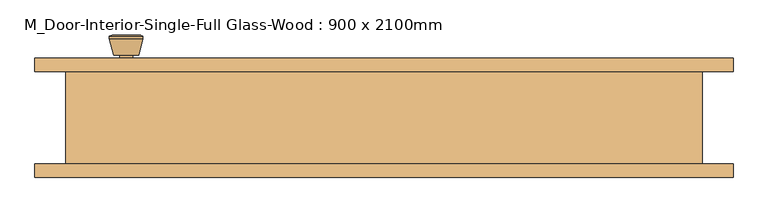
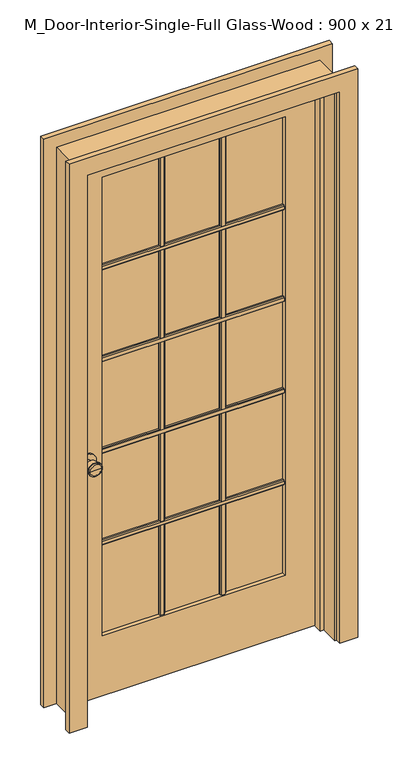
"""IFC4 building model written with IfcOpenShell, lengths in millimetres: door geometry, M_Door-Interior-Single-Full Glass-Wood : 900 x 2100mm."""

from ifc_helpers import new_model, si_unit, point, frame, frame_2d, origin, place, context, project, spatial, polyline, circle_curve, trimmed, segment, composite_curve, outline, extrude, faceted_brep, source, transform, mapped, element, save
from ifc_brep_helpers import plane_surface, cylinder_surface, revolved_surface, advanced_brep


def m_door_interior_single_full_glass_wood_900_x_2100mm_91e60ec7(model_context):
    return source(origin(), model_context, "Body", "SolidModel", [
        extrude(outline(polyline([(52.075, 1639.525), (58.425, 1639.525), (61.6, 1636.35), (61.6, 1623.65), (58.425, 1620.475), (52.075, 1620.475), (52.075, 1639.525)])), frame((-330.0, 0.0, 0.0), z_axis=(1.0, 0.0, 0.0), x_axis=(0.0, 1.0, 0.0)), (0.0, 0.0, 1.0), 660.0),
        extrude(outline(polyline([(52.075, 1289.525), (58.425, 1289.525), (61.6, 1286.35), (61.6, 1273.65), (58.425, 1270.475), (52.075, 1270.475), (52.075, 1289.525)])), frame((-330.0, 0.0, 0.0), z_axis=(1.0, 0.0, 0.0), x_axis=(0.0, 1.0, 0.0)), (0.0, 0.0, 1.0), 660.0),
        extrude(outline(polyline([(52.075, 939.525), (58.425, 939.525), (61.6, 936.35), (61.6, 923.65), (58.425, 920.475), (52.075, 920.475), (52.075, 939.525)])), frame((-330.0, 0.0, 0.0), z_axis=(1.0, 0.0, 0.0), x_axis=(0.0, 1.0, 0.0)), (0.0, 0.0, 1.0), 660.0),
        extrude(outline(polyline([(52.075, 589.525), (58.425, 589.525), (61.6, 586.35), (61.6, 573.65), (58.425, 570.475), (52.075, 570.475), (52.075, 589.525)])), frame((-330.0, 0.0, 0.0), z_axis=(1.0, 0.0, 0.0), x_axis=(0.0, 1.0, 0.0)), (0.0, 0.0, 1.0), 660.0),
        extrude(outline(polyline([(100.475, 52.075), (100.475, 58.425), (103.65, 61.6), (116.35, 61.6), (119.525, 58.425), (119.525, 52.075), (100.475, 52.075)])), frame((0.0, 0.0, 230.0), z_axis=(0.0, 0.0, 1.0), x_axis=(1.0, 0.0, 0.0)), (0.0, 0.0, 1.0), 1750.0),
        extrude(outline(polyline([(-119.525, 52.075), (-119.525, 58.425), (-116.35, 61.6), (-103.65, 61.6), (-100.475, 58.425), (-100.475, 52.075), (-119.525, 52.075)])), frame((0.0, 0.0, 230.0), z_axis=(0.0, 0.0, 1.0), x_axis=(1.0, 0.0, 0.0)), (0.0, 0.0, 1.0), 1750.0),
        extrude(outline(polyline([(45.075, 1639.525), (45.075, 1620.475), (38.725, 1620.475), (35.55, 1623.65), (35.55, 1636.35), (38.725, 1639.525), (45.075, 1639.525)])), frame((-330.0, 0.0, 0.0), z_axis=(1.0, 0.0, 0.0), x_axis=(0.0, 1.0, 0.0)), (0.0, 0.0, 1.0), 660.0),
        extrude(outline(polyline([(45.075, 1289.525), (45.075, 1270.475), (38.725, 1270.475), (35.55, 1273.65), (35.55, 1286.35), (38.725, 1289.525), (45.075, 1289.525)])), frame((-330.0, 0.0, 0.0), z_axis=(1.0, 0.0, 0.0), x_axis=(0.0, 1.0, 0.0)), (0.0, 0.0, 1.0), 660.0),
        extrude(outline(polyline([(45.075, 939.525), (45.075, 920.475), (38.725, 920.475), (35.55, 923.65), (35.55, 936.35), (38.725, 939.525), (45.075, 939.525)])), frame((-330.0, 0.0, 0.0), z_axis=(1.0, 0.0, 0.0), x_axis=(0.0, 1.0, 0.0)), (0.0, 0.0, 1.0), 660.0),
        extrude(outline(polyline([(45.075, 589.525), (45.075, 570.475), (38.725, 570.475), (35.55, 573.65), (35.55, 586.35), (38.725, 589.525), (45.075, 589.525)])), frame((-330.0, 0.0, 0.0), z_axis=(1.0, 0.0, 0.0), x_axis=(0.0, 1.0, 0.0)), (0.0, 0.0, 1.0), 660.0),
        extrude(outline(polyline([(100.475, 45.075), (119.525, 45.075), (119.525, 38.725), (116.35, 35.55), (103.65, 35.55), (100.475, 38.725), (100.475, 45.075)])), frame((0.0, 0.0, 230.0), z_axis=(0.0, 0.0, 1.0), x_axis=(1.0, 0.0, 0.0)), (0.0, 0.0, 1.0), 1750.0),
        extrude(outline(polyline([(-119.525, 45.075), (-100.475, 45.075), (-100.475, 38.725), (-103.65, 35.55), (-116.35, 35.55), (-119.525, 38.725), (-119.525, 45.075)])), frame((0.0, 0.0, 230.0), z_axis=(0.0, 0.0, 1.0), x_axis=(1.0, 0.0, 0.0)), (0.0, 0.0, 1.0), 1750.0),
        advanced_brep(
        [(-385.0, 25.075, 914.4), (-375.0, 25.075, 914.4), (-395.0, 25.075, 914.4), (-364.5241324, -23.925, 914.4), (-385.0, -23.925, 914.4), (-405.4758676, -23.925, 914.4), (-360.0, -22.0971319, 914.4), (-410.0, -22.0971319, 914.4), (-360.0, -18.6334537, 914.4), (-410.0, -18.6334537, 914.4), (-366.363764, 6.075, 914.4), (-403.636236, 6.075, 914.4), (-375.0, 6.075, 914.4), (-395.0, 6.075, 914.4)],
        [
            (0, 1),
            (1, 2, circle_curve(frame((-385.0, 25.075, 914.4), z_axis=(0.0, 1.0, 0.0), x_axis=(-1.0, 0.0, 0.0)), 10.0)),
            (2, 0),
            (2, 1, circle_curve(frame((-385.0, 25.075, 914.4), z_axis=(0.0, 1.0, 0.0), x_axis=(-1.0, 0.0, 0.0)), 10.0)),
            (3, 4),
            (4, 5),
            (5, 3, circle_curve(frame((-385.0, -23.925, 914.4), z_axis=(0.0, -1.0, 0.0), x_axis=(-1.0, 0.0, 0.0)), 20.4758676)),
            (3, 5, circle_curve(frame((-385.0, -23.925, 914.4), z_axis=(0.0, -1.0, 0.0), x_axis=(-1.0, 0.0, 0.0)), 20.4758676)),
            (6, 3),
            (5, 7),
            (7, 6, circle_curve(frame((-385.0, -22.0971319, 914.4), z_axis=(0.0, -1.0, 0.0), x_axis=(-1.0, 0.0, 0.0)), 25.0)),
            (6, 7, circle_curve(frame((-385.0, -22.0971319, 914.4), z_axis=(0.0, -1.0, 0.0), x_axis=(-1.0, 0.0, 0.0)), 25.0)),
            (8, 6),
            (7, 9),
            (9, 8, circle_curve(frame((-385.0, -18.6334537, 914.4), z_axis=(0.0, -1.0, 0.0), x_axis=(-1.0, 0.0, 0.0)), 25.0)),
            (8, 9, circle_curve(frame((-385.0, -18.6334537, 914.4), z_axis=(0.0, -1.0, 0.0), x_axis=(-1.0, 0.0, 0.0)), 25.0)),
            (10, 8),
            (9, 11),
            (11, 10, circle_curve(frame((-385.0, 6.075, 914.4), z_axis=(0.0, -1.0, 0.0), x_axis=(-1.0, 0.0, 0.0)), 18.636236)),
            (10, 11, circle_curve(frame((-385.0, 6.075, 914.4), z_axis=(0.0, -1.0, 0.0), x_axis=(-1.0, 0.0, 0.0)), 18.636236)),
            (12, 10),
            (11, 13),
            (13, 12, circle_curve(frame((-385.0, 6.075, 914.4), z_axis=(0.0, -1.0, 0.0), x_axis=(-1.0, 0.0, 0.0)), 10.0)),
            (12, 13, circle_curve(frame((-385.0, 6.075, 914.4), z_axis=(0.0, -1.0, 0.0), x_axis=(-1.0, 0.0, 0.0)), 10.0)),
            (1, 12),
            (13, 2),
        ],
        [
            plane_surface(frame((-385.0, 25.075, 914.4), z_axis=(0.0, 1.0, 0.0), x_axis=(-1.0, 0.0, 0.0))),
            plane_surface(frame((-385.0, -23.925, 914.4), z_axis=(0.0, -1.0, 0.0), x_axis=(-1.0, 0.0, 0.0))),
            revolved_surface(polyline([(-405.4758676, -23.925, 914.4), (-410.0, -22.0971319, 914.4)]), (-385.0, 25.075, 914.4), (0.0, 1.0, 0.0)),
            cylinder_surface(frame((-385.0, 25.075, 914.4), z_axis=(0.0, 1.0, 0.0), x_axis=(-1.0, 0.0, 0.0)), 25.0),
            revolved_surface(polyline([(-410.0, -18.6334537, 914.4), (-403.636236, 6.075, 914.4)]), (-385.0, 25.075, 914.4), (0.0, 1.0, 0.0)),
            plane_surface(frame((-385.0, 6.075, 914.4), z_axis=(0.0, 1.0, 0.0), x_axis=(-1.0, 0.0, 0.0))),
            cylinder_surface(frame((-385.0, 25.075, 914.4), z_axis=(0.0, 1.0, 0.0), x_axis=(-1.0, 0.0, 0.0)), 10.0),
        ],
        [
            (0, [[1, 2, 3]]),
            (0, [[-3, 4, -1]]),
            (1, [[5, 6, 7]]),
            (1, [[-6, -5, 8]]),
            (2, [[9, -7, 10, 11]]),
            (2, [[-10, -8, -9, 12]]),
            (3, [[13, -11, 14, 15]]),
            (3, [[-14, -12, -13, 16]]),
            (4, [[17, -15, 18, 19]]),
            (4, [[-18, -16, -17, 20]]),
            (5, [[21, -19, 22, 23]]),
            (5, [[-22, -20, -21, 24]]),
            (6, [[25, -23, 26, -2]]),
            (6, [[-26, -24, -25, -4]]),
        ],
    ),
        extrude(outline(composite_curve([segment(trimmed(circle_curve(frame_2d((914.4, -385.0)), 30.0), [point((914.4, -415.0))], [point((914.4, -355.0))], False, "CARTESIAN"), True, "CONTINUOUS"), segment(trimmed(circle_curve(frame_2d((914.4, -385.0)), 30.0), [point((914.4, -355.0))], [point((914.4, -415.0))], False, "CARTESIAN"), True, "CONTINUOUS")], self_intersect=False)), frame((0.0, 25.075, 0.0), z_axis=(0.0, 1.0, 0.0), x_axis=(0.0, 0.0, 1.0)), (0.0, 0.0, 1.0), 6.0),
        advanced_brep(
        [(-385.0, 72.075, 914.4), (-395.0, 72.075, 914.4), (-375.0, 72.075, 914.4), (-364.5241324, 121.075, 914.4), (-405.4758676, 121.075, 914.4), (-385.0, 121.075, 914.4), (-360.0, 119.2471319, 914.4), (-410.0, 119.2471319, 914.4), (-360.0, 115.7834537, 914.4), (-410.0, 115.7834537, 914.4), (-366.363764, 91.075, 914.4), (-403.636236, 91.075, 914.4), (-375.0, 91.075, 914.4), (-395.0, 91.075, 914.4)],
        [
            (0, 1),
            (1, 2, circle_curve(frame((-385.0, 72.075, 914.4), z_axis=(0.0, -1.0, 0.0), x_axis=(-1.0, 0.0, 0.0)), 10.0)),
            (2, 0),
            (2, 1, circle_curve(frame((-385.0, 72.075, 914.4), z_axis=(0.0, -1.0, 0.0), x_axis=(-1.0, 0.0, 0.0)), 10.0)),
            (3, 4, circle_curve(frame((-385.0, 121.075, 914.4), z_axis=(0.0, 1.0, 0.0), x_axis=(-1.0, 0.0, 0.0)), 20.4758676)),
            (4, 5),
            (5, 3),
            (4, 3, circle_curve(frame((-385.0, 121.075, 914.4), z_axis=(0.0, 1.0, 0.0), x_axis=(-1.0, 0.0, 0.0)), 20.4758676)),
            (6, 7, circle_curve(frame((-385.0, 119.2471319, 914.4), z_axis=(0.0, 1.0, 0.0), x_axis=(-1.0, 0.0, 0.0)), 25.0)),
            (7, 4),
            (3, 6),
            (7, 6, circle_curve(frame((-385.0, 119.2471319, 914.4), z_axis=(0.0, 1.0, 0.0), x_axis=(-1.0, 0.0, 0.0)), 25.0)),
            (8, 9, circle_curve(frame((-385.0, 115.7834537, 914.4), z_axis=(0.0, 1.0, 0.0), x_axis=(-1.0, 0.0, 0.0)), 25.0)),
            (9, 7),
            (6, 8),
            (9, 8, circle_curve(frame((-385.0, 115.7834537, 914.4), z_axis=(0.0, 1.0, 0.0), x_axis=(-1.0, 0.0, 0.0)), 25.0)),
            (10, 11, circle_curve(frame((-385.0, 91.075, 914.4), z_axis=(0.0, 1.0, 0.0), x_axis=(-1.0, 0.0, 0.0)), 18.636236)),
            (11, 9),
            (8, 10),
            (11, 10, circle_curve(frame((-385.0, 91.075, 914.4), z_axis=(0.0, 1.0, 0.0), x_axis=(-1.0, 0.0, 0.0)), 18.636236)),
            (12, 13, circle_curve(frame((-385.0, 91.075, 914.4), z_axis=(0.0, 1.0, 0.0), x_axis=(-1.0, 0.0, 0.0)), 10.0)),
            (13, 11),
            (10, 12),
            (13, 12, circle_curve(frame((-385.0, 91.075, 914.4), z_axis=(0.0, 1.0, 0.0), x_axis=(-1.0, 0.0, 0.0)), 10.0)),
            (1, 13),
            (12, 2),
        ],
        [
            plane_surface(frame((-385.0, 72.075, 914.4), z_axis=(0.0, -1.0, 0.0), x_axis=(-1.0, 0.0, 0.0))),
            plane_surface(frame((-385.0, 121.075, 914.4), z_axis=(0.0, 1.0, 0.0), x_axis=(-1.0, 0.0, 0.0))),
            revolved_surface(polyline([(-405.4758676, 121.075, 914.4), (-410.0, 119.2471319, 914.4)]), (-385.0, 72.075, 914.4), (0.0, -1.0, 0.0)),
            cylinder_surface(frame((-385.0, 72.075, 914.4), z_axis=(0.0, -1.0, 0.0), x_axis=(-1.0, 0.0, 0.0)), 25.0),
            revolved_surface(polyline([(-410.0, 115.7834537, 914.4), (-403.636236, 91.075, 914.4)]), (-385.0, 72.075, 914.4), (0.0, -1.0, 0.0)),
            plane_surface(frame((-385.0, 91.075, 914.4), z_axis=(0.0, -1.0, 0.0), x_axis=(-1.0, 0.0, 0.0))),
            cylinder_surface(frame((-385.0, 72.075, 914.4), z_axis=(0.0, -1.0, 0.0), x_axis=(-1.0, 0.0, 0.0)), 10.0),
        ],
        [
            (0, [[1, 2, 3]]),
            (0, [[-3, 4, -1]]),
            (1, [[5, 6, 7]]),
            (1, [[8, -7, -6]]),
            (2, [[9, 10, -5, 11]]),
            (2, [[12, -11, -8, -10]]),
            (3, [[13, 14, -9, 15]]),
            (3, [[16, -15, -12, -14]]),
            (4, [[17, 18, -13, 19]]),
            (4, [[20, -19, -16, -18]]),
            (5, [[21, 22, -17, 23]]),
            (5, [[24, -23, -20, -22]]),
            (6, [[-2, 25, -21, 26]]),
            (6, [[-4, -26, -24, -25]]),
        ],
    ),
        extrude(outline(composite_curve([segment(trimmed(circle_curve(frame_2d((914.4, -385.0)), 30.0), [point((914.4, -415.0))], [point((914.4, -355.0))], False, "CARTESIAN"), True, "CONTINUOUS"), segment(trimmed(circle_curve(frame_2d((914.4, -385.0)), 30.0), [point((914.4, -355.0))], [point((914.4, -415.0))], False, "CARTESIAN"), True, "CONTINUOUS")], self_intersect=False)), frame((0.0, 66.075, 0.0), z_axis=(0.0, 1.0, 0.0), x_axis=(0.0, 0.0, 1.0)), (0.0, 0.0, 1.0), 6.0),
        extrude(outline(polyline([(2100.0, -450.0), (0.0, -450.0), (0.0, 450.0), (2100.0, 450.0), (2100.0, -450.0)]), holes=[polyline([(1980.0, -330.0), (1980.0, 330.0), (230.0, 330.0), (230.0, -330.0), (1980.0, -330.0)])]), frame((0.0, 31.075, 0.0), z_axis=(0.0, 1.0, 0.0), x_axis=(0.0, 0.0, 1.0)), (0.0, 0.0, 1.0), 35.0),
        faceted_brep([(475.0, 66.075, 0.0), (475.0, -72.425, 0.0), (450.0, -72.425, 0.0), (450.0, -3.85, 0.0), (437.3, -3.85, 0.0), (437.3, 31.075, 0.0), (450.0, 31.075, 0.0), (450.0, 66.075, 0.0), (475.0, 66.075, 2125.0), (475.0, -72.425, 2125.0), (-475.0, -72.425, 2125.0), (-475.0, -72.425, 0.0), (-450.0, -72.425, 0.0), (-450.0, -72.425, 2100.0), (450.0, -72.425, 2100.0), (450.0, -3.85, 2100.0), (-450.0, -3.85, 2100.0), (-450.0, -3.85, 0.0), (-437.3, -3.85, 0.0), (-437.3, -3.85, 2087.3), (437.3, -3.85, 2087.3), (437.3, 31.075, 2087.3), (-437.3, 31.075, 2087.3), (-437.3, 31.075, 0.0), (-450.0, 31.075, 0.0), (-450.0, 31.075, 2100.0), (450.0, 31.075, 2100.0), (450.0, 66.075, 2100.0), (-450.0, 66.075, 2100.0), (-450.0, 66.075, 0.0), (-475.0, 66.075, 0.0), (-475.0, 66.075, 2125.0)], [[[0, 1, 2, 3, 4, 5, 6, 7]], [[1, 0, 8, 9]], [[2, 1, 9, 10, 11, 12, 13, 14]], [[3, 2, 14, 15]], [[4, 3, 15, 16, 17, 18, 19, 20]], [[5, 4, 20, 21]], [[6, 5, 21, 22, 23, 24, 25, 26]], [[7, 6, 26, 27]], [[0, 7, 27, 28, 29, 30, 31, 8]], [[9, 8, 31, 10]], [[15, 14, 13, 16]], [[21, 20, 19, 22]], [[27, 26, 25, 28]], [[30, 29, 24, 23, 18, 17, 12, 11]], [[10, 31, 30, 11]], [[16, 13, 12, 17]], [[22, 19, 18, 23]], [[28, 25, 24, 29]]]),
        extrude(outline(polyline([(330.0, 45.075), (-330.0, 45.075), (-330.0, 52.075), (330.0, 52.075), (330.0, 45.075)])), frame((0.0, 0.0, 230.0), z_axis=(0.0, 0.0, 1.0), x_axis=(1.0, 0.0, 0.0)), (0.0, 0.0, 1.0), 1750.0),
        extrude(outline(polyline([(0.0, 456.35), (0.0, 521.35), (2171.35, 521.35), (2171.35, -521.35), (0.0, -521.35), (0.0, -456.35), (2106.35, -456.35), (2106.35, 456.35), (0.0, 456.35)])), frame((0.0, -92.425, 0.0), z_axis=(0.0, 1.0, 0.0), x_axis=(0.0, 0.0, 1.0)), (0.0, 0.0, 1.0), 20.0),
        extrude(outline(polyline([(0.0, 456.35), (0.0, 521.35), (2171.35, 521.35), (2171.35, -521.35), (0.0, -521.35), (0.0, -456.35), (2106.35, -456.35), (2106.35, 456.35), (0.0, 456.35)])), frame((0.0, 66.075, 0.0), z_axis=(0.0, 1.0, 0.0), x_axis=(0.0, 0.0, 1.0)), (0.0, 0.0, 1.0), 20.0),
    ])


if __name__ == "__main__":
    model = new_model("IFC4")
    model_context = context("Model", 3, world=origin())
    ifc_project = project(units=[si_unit("LENGTHUNIT", "METRE", prefix="MILLI")], contexts=[model_context])
    site = spatial("IfcSite", under=ifc_project)
    building = spatial("IfcBuilding", under=site)
    placement = place(None, origin())
    m_door_interior_single_full_glass_wood_900_x_2100mm_shape = m_door_interior_single_full_glass_wood_900_x_2100mm_91e60ec7(model_context)
    element("IfcDoor", 1, ObjectType="M_Door-Interior-Single-Full Glass-Wood : 900 x 2100mm", at=placement, inside=building, context=model_context, shape_type="MappedRepresentation", body=[
        mapped(m_door_interior_single_full_glass_wood_900_x_2100mm_shape, transform((0.0, 0.0, 0.0), x_axis=(1.0, 0.0, 0.0), y_axis=(0.0, 1.0, 0.0), z_axis=(0.0, 0.0, 1.0))),
    ])
    save(model, "model.ifc")
